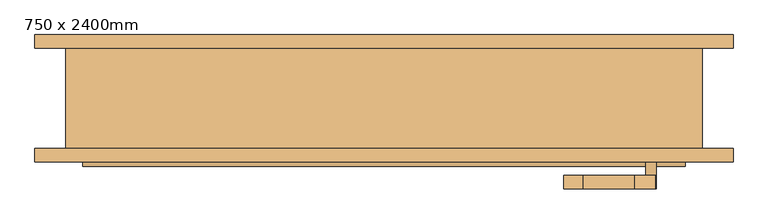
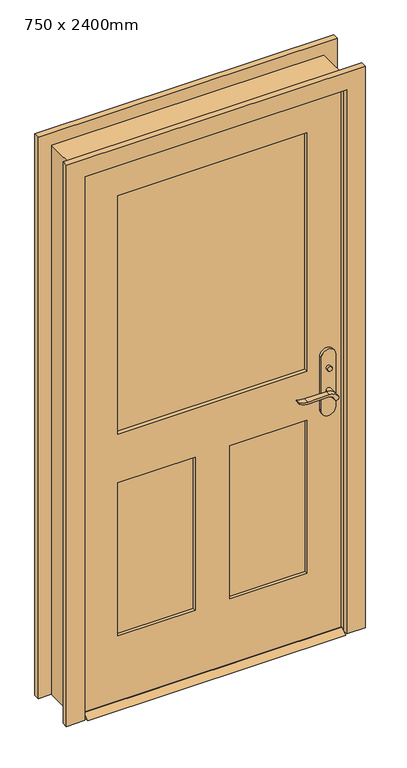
"""IFC4 building model written with IfcOpenShell, lengths in millimetres: door geometry, M_Puerta-Exterior-Simple-Entrada-Cristal_plano_mitad-Revest_madera : 750 x 2400mm."""

from ifc_helpers import new_model, si_unit, point, frame, frame_2d, origin, place, context, project, spatial, polyline, circle_curve, trimmed, segment, composite_curve, outline, extrude, faceted_brep, source, transform, mapped, element, save


def door_750_x_2400mm_4532b83f(model_context):
    return source(origin(), model_context, "Body", "SolidModel", [
        extrude(outline(polyline([(-38.025, 15.0), (-12.625, 0.0), (-98.425, 0.0), (-73.025, 15.0), (-38.025, 15.0)])), frame((-450.0, 0.0, 0.0), z_axis=(1.0, 0.0, 0.0), x_axis=(0.0, 1.0, 0.0)), (0.0, 0.0, 1.0), 900.0),
        extrude(outline(polyline([(403.8, -16.825), (403.8, -26.825), (393.8, -26.825), (393.8, -16.825), (403.8, -16.825)])), frame((0.0, 0.0, 981.9), z_axis=(0.0, 0.0, 1.0), x_axis=(1.0, 0.0, 0.0)), (0.0, 0.0, 1.0), 30.0),
        extrude(outline(composite_curve([segment(trimmed(circle_curve(frame_2d((996.9, 398.8)), 8.0), [point((996.9, 390.8))], [point((996.9, 406.8))], False, "CARTESIAN"), True, "CONTINUOUS"), segment(trimmed(circle_curve(frame_2d((996.9, 398.8)), 8.0), [point((996.9, 406.8))], [point((996.9, 390.8))], False, "CARTESIAN"), True, "CONTINUOUS")], self_intersect=False)), frame((0.0, -91.825, 0.0), z_axis=(0.0, 1.0, 0.0), x_axis=(0.0, 0.0, 1.0)), (0.0, 0.0, 1.0), 10.0),
        extrude(outline(composite_curve([segment(trimmed(circle_curve(frame_2d((897.1555521, 375.1324871)), 37.2832219), [point((919.0523287, 405.3081363))], [point((934.4, 373.4325667))], False, "CARTESIAN"), True, "CONTINUOUS"), segment(polyline([(934.4, 373.4325667), (934.4, 297.1564091)]), True, "CONTINUOUS"), segment(trimmed(circle_curve(frame_2d((1017.6850638, 297.2227909)), 83.2850902), [point((934.4, 297.1564091))], [point((939.4, 268.8))], True, "CARTESIAN"), True, "CONTINUOUS"), segment(polyline([(939.4, 268.8), (936.6135558, 268.8)]), True, "CONTINUOUS"), segment(trimmed(circle_curve(frame_2d((986.6709207, 300.7396612)), 59.3791355), [point((936.6135558, 268.8))], [point((927.4, 297.1564091))], False, "CARTESIAN"), True, "CONTINUOUS"), segment(polyline([(927.4, 297.1564091), (927.4, 373.4138099)]), True, "CONTINUOUS"), segment(trimmed(circle_curve(frame_2d((909.2738613, 373.4138099)), 18.1261387), [point((927.4, 373.4138099))], [point((914.4, 390.8))], True, "CARTESIAN"), True, "CONTINUOUS"), segment(trimmed(circle_curve(frame_2d((914.4, 398.8)), 8.0), [point((914.4, 390.8))], [point((919.0523287, 405.3081363))], False, "CARTESIAN"), True, "CONTINUOUS")], self_intersect=False)), frame((0.0, 3.175, 0.0), z_axis=(0.0, 1.0, 0.0), x_axis=(0.0, 0.0, 1.0)), (0.0, 0.0, 1.0), 20.0),
        extrude(outline(composite_curve([segment(trimmed(circle_curve(frame_2d((914.4, 398.8)), 8.0), [point((914.3999903, 390.8))], [point((919.0523287, 405.3081363))], False, "CARTESIAN"), True, "CONTINUOUS"), segment(trimmed(circle_curve(frame_2d((897.1555521, 375.1324871)), 37.2832219), [point((919.0523287, 405.3081363))], [point((934.4, 373.4325667))], False, "CARTESIAN"), True, "CONTINUOUS"), segment(polyline([(934.4, 373.4325667), (934.4, 297.1564091)]), True, "CONTINUOUS"), segment(trimmed(circle_curve(frame_2d((1017.6850638, 297.2227909)), 83.2850902), [point((934.4, 297.1564091))], [point((939.4, 268.8))], True, "CARTESIAN"), True, "CONTINUOUS"), segment(polyline([(939.4, 268.8), (936.6135558, 268.8)]), True, "CONTINUOUS"), segment(trimmed(circle_curve(frame_2d((986.6709207, 300.7396612)), 59.3791355), [point((936.6135558, 268.8))], [point((927.4, 297.1564091))], False, "CARTESIAN"), True, "CONTINUOUS"), segment(polyline([(927.4, 297.1564091), (927.4, 373.4138122)]), True, "CONTINUOUS"), segment(trimmed(circle_curve(frame_2d((909.2738682, 373.4138122)), 18.1261318), [point((927.4, 373.4138122))], [point((914.3999903, 390.8))], True, "CARTESIAN"), True, "CONTINUOUS")], self_intersect=False)), frame((0.0, -131.825, 0.0), z_axis=(0.0, 1.0, 0.0), x_axis=(0.0, 0.0, 1.0)), (0.0, 0.0, 1.0), 20.0),
        extrude(outline(composite_curve([segment(trimmed(circle_curve(frame_2d((914.4, 398.8)), 8.0), [point((914.4, 390.8))], [point((914.4, 406.8))], False, "CARTESIAN"), True, "CONTINUOUS"), segment(trimmed(circle_curve(frame_2d((914.4, 398.8)), 8.0), [point((914.4, 406.8))], [point((914.4, 390.8))], False, "CARTESIAN"), True, "CONTINUOUS")], self_intersect=False)), frame((0.0, -26.825, 0.0), z_axis=(0.0, 1.0, 0.0), x_axis=(0.0, 0.0, 1.0)), (0.0, 0.0, 1.0), 30.0),
        extrude(outline(composite_curve([segment(trimmed(circle_curve(frame_2d((914.4, 398.8)), 8.0), [point((914.4, 390.8))], [point((914.4, 406.8))], False, "CARTESIAN"), True, "CONTINUOUS"), segment(trimmed(circle_curve(frame_2d((914.4, 398.8)), 8.0), [point((914.4, 406.8))], [point((914.4, 390.8))], False, "CARTESIAN"), True, "CONTINUOUS")], self_intersect=False)), frame((0.0, -111.825, 0.0), z_axis=(0.0, 1.0, 0.0), x_axis=(0.0, 0.0, 1.0)), (0.0, 0.0, 1.0), 30.0),
        extrude(outline(composite_curve([segment(polyline([(844.4, 423.8), (1039.4, 423.8)]), True, "CONTINUOUS"), segment(trimmed(circle_curve(frame_2d((1039.4, 398.8)), 25.0), [point((1039.4, 423.8))], [point((1039.4, 373.8))], False, "CARTESIAN"), True, "CONTINUOUS"), segment(polyline([(1039.4, 373.8), (844.4, 373.8)]), True, "CONTINUOUS"), segment(trimmed(circle_curve(frame_2d((844.4, 398.8)), 25.0), [point((844.4, 373.8))], [point((844.4, 423.8))], False, "CARTESIAN"), True, "CONTINUOUS")], self_intersect=False)), frame((0.0, -36.825, 0.0), z_axis=(0.0, 1.0, 0.0), x_axis=(0.0, 0.0, 1.0)), (0.0, 0.0, 1.0), 10.0),
        extrude(outline(composite_curve([segment(polyline([(844.4, 423.8), (1039.4, 423.8)]), True, "CONTINUOUS"), segment(trimmed(circle_curve(frame_2d((1039.4, 398.8)), 25.0), [point((1039.4, 423.8))], [point((1039.4, 373.8))], False, "CARTESIAN"), True, "CONTINUOUS"), segment(polyline([(1039.4, 373.8), (844.4, 373.8)]), True, "CONTINUOUS"), segment(trimmed(circle_curve(frame_2d((844.4, 398.8)), 25.0), [point((844.4, 373.8))], [point((844.4, 423.8))], False, "CARTESIAN"), True, "CONTINUOUS")], self_intersect=False)), frame((0.0, -81.825, 0.0), z_axis=(0.0, 1.0, 0.0), x_axis=(0.0, 0.0, 1.0)), (0.0, 0.0, 1.0), 10.0),
        faceted_brep([(475.0, -71.825, 0.0), (450.0, -71.825, 0.0), (450.0, -36.825, 0.0), (437.3, -36.825, 0.0), (437.3, -1.9, 0.0), (450.0, -1.9, 0.0), (450.0, 78.175, 0.0), (475.0, 78.175, 0.0), (475.0, 78.175, 2025.0), (475.0, -71.825, 2025.0), (450.0, 78.175, 2000.0), (-450.0, 78.175, 2000.0), (-450.0, 78.175, 0.0), (-475.0, 78.175, 0.0), (-475.0, 78.175, 2025.0), (450.0, -1.9, 2000.0), (437.3, -1.9, 1987.3), (-437.3, -1.9, 1987.3), (-437.3, -1.9, 0.0), (-450.0, -1.9, 0.0), (-450.0, -1.9, 2000.0), (437.3, -36.825, 1987.3), (450.0, -36.825, 2000.0), (-450.0, -36.825, 2000.0), (-450.0, -36.825, 0.0), (-437.3, -36.825, 0.0), (-437.3, -36.825, 1987.3), (450.0, -71.825, 2000.0), (-475.0, -71.825, 2025.0), (-475.0, -71.825, 0.0), (-450.0, -71.825, 0.0), (-450.0, -71.825, 2000.0)], [[[0, 1, 2, 3, 4, 5, 6, 7]], [[7, 8, 9, 0]], [[6, 10, 11, 12, 13, 14, 8, 7]], [[5, 15, 10, 6]], [[4, 16, 17, 18, 19, 20, 15, 5]], [[3, 21, 16, 4]], [[2, 22, 23, 24, 25, 26, 21, 3]], [[1, 27, 22, 2]], [[0, 9, 28, 29, 30, 31, 27, 1]], [[8, 14, 28, 9]], [[15, 20, 11, 10]], [[21, 26, 17, 16]], [[27, 31, 23, 22]], [[29, 13, 12, 19, 18, 25, 24, 30]], [[14, 13, 29, 28]], [[20, 19, 12, 11]], [[26, 25, 18, 17]], [[31, 30, 24, 23]]]),
        extrude(outline(polyline([(2000.0, -450.0), (15.0, -450.0), (15.0, 450.0), (2000.0, 450.0), (2000.0, -450.0)]), holes=[polyline([(1000.0, -330.0), (1880.0, -330.0), (1880.0, 330.0), (1000.0, 330.0), (1000.0, -330.0)]), polyline([(820.0, -60.0), (255.0, -60.0), (255.0, -330.0), (820.0, -330.0), (820.0, -60.0)]), polyline([(820.0, 330.0), (255.0, 330.0), (255.0, 60.0), (820.0, 60.0), (820.0, 330.0)])]), frame((0.0, -71.825, 0.0), z_axis=(0.0, 1.0, 0.0), x_axis=(0.0, 0.0, 1.0)), (0.0, 0.0, 1.0), 35.0),
        extrude(outline(polyline([(330.0, -50.825), (330.0, -57.825), (-330.0, -57.825), (-330.0, -50.825), (330.0, -50.825)])), frame((0.0, 0.0, 1000.0), z_axis=(0.0, 0.0, 1.0), x_axis=(1.0, 0.0, 0.0)), (0.0, 0.0, 1.0), 880.0),
        extrude(outline(polyline([(-60.0, -48.4916667), (-60.0, -60.1583333), (-330.0, -60.1583333), (-330.0, -48.4916667), (-60.0, -48.4916667)])), frame((0.0, 0.0, 255.0), z_axis=(0.0, 0.0, 1.0), x_axis=(1.0, 0.0, 0.0)), (0.0, 0.0, 1.0), 565.0),
        extrude(outline(polyline([(330.0, -48.4916667), (330.0, -60.1583333), (60.0, -60.1583333), (60.0, -48.4916667), (330.0, -48.4916667)])), frame((0.0, 0.0, 255.0), z_axis=(0.0, 0.0, 1.0), x_axis=(1.0, 0.0, 0.0)), (0.0, 0.0, 1.0), 565.0),
        extrude(outline(polyline([(0.0, -456.35), (2006.35, -456.35), (2006.35, 456.35), (0.0, 456.35), (0.0, 521.35), (2071.35, 521.35), (2071.35, -521.35), (0.0, -521.35), (0.0, -456.35)])), frame((0.0, -91.825, 0.0), z_axis=(0.0, 1.0, 0.0), x_axis=(0.0, 0.0, 1.0)), (0.0, 0.0, 1.0), 20.0),
        extrude(outline(polyline([(0.0, -456.35), (2006.35, -456.35), (2006.35, 456.35), (0.0, 456.35), (0.0, 521.35), (2071.35, 521.35), (2071.35, -521.35), (0.0, -521.35), (0.0, -456.35)])), frame((0.0, 78.175, 0.0), z_axis=(0.0, 1.0, 0.0), x_axis=(0.0, 0.0, 1.0)), (0.0, 0.0, 1.0), 20.0),
    ])


if __name__ == "__main__":
    model = new_model("IFC4")
    model_context = context("Model", 3, world=origin())
    ifc_project = project(units=[si_unit("LENGTHUNIT", "METRE", prefix="MILLI")], contexts=[model_context])
    site = spatial("IfcSite", under=ifc_project)
    building = spatial("IfcBuilding", under=site)
    placement = place(None, origin())
    door_750_x_2400mm_shape = door_750_x_2400mm_4532b83f(model_context)
    element("IfcDoor", 1, ObjectType="M_Puerta-Exterior-Simple-Entrada-Cristal_plano_mitad-Revest_madera : 750 x 2400mm", at=placement, inside=building, context=model_context, shape_type="MappedRepresentation", body=[
        mapped(door_750_x_2400mm_shape, transform((0.0, 0.0, 0.0), x_axis=(1.0, 0.0, 0.0), y_axis=(0.0, 1.0, 0.0), z_axis=(0.0, 0.0, 1.0))),
    ])
    save(model, "model.ifc")
